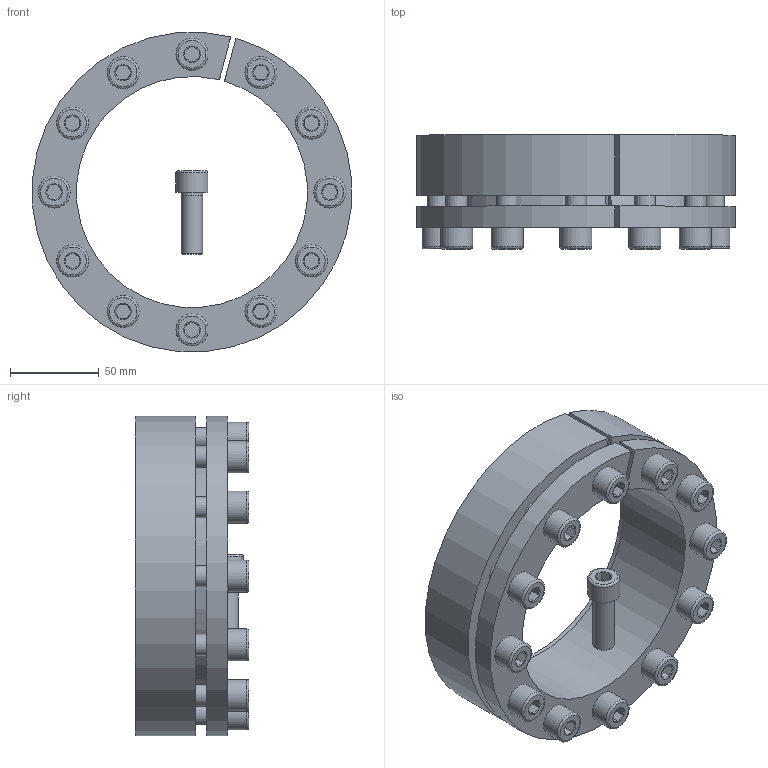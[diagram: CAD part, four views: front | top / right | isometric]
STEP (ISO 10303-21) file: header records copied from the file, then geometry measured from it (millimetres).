
FILE_DESCRIPTION( ( 'Unknown' ), '1' );
FILE_NAME( 'C:/Dokumente und Einstellungen/Sven/Desktop/homepage/cad - homepage/KBS13/KBS 13 - 130 x 180.stp', 'Unknown', ( 'Unknown' ), ( 'Unknown' ), 'XStep 1.0', 'Unknown', ' ' );
FILE_SCHEMA( ( 'automotive_design' ) );
Length unit declared in the file: millimetre
Products named in the file (3): Assem1; KBS 13 - 130 x 180; ISO EN DIN 4762 M12x35
Bounding box: 179.45 x 64 x 179.44 mm (x, y, z)
Volume: 1101385.7 mm3; surface area: 257041.9 mm2
Topology: 15 solids, 15 shells, 397 faces, 809 edges, 494 vertices
Faces by surface type: plane 170, cylinder 106, cone 95, torus 26
Full cylindrical faces by diameter (mm): 11 x13, 12 x74, 18 x13
Entity records: 2158 total; most frequent: CARTESIAN_POINT 337, DIRECTION 328, ORIENTED_EDGE 226, AXIS2_PLACEMENT_3D 150, EDGE_LOOP 144, EDGE_CURVE 113, FACE_OUTER_BOUND 91, VERTEX_POINT 91
